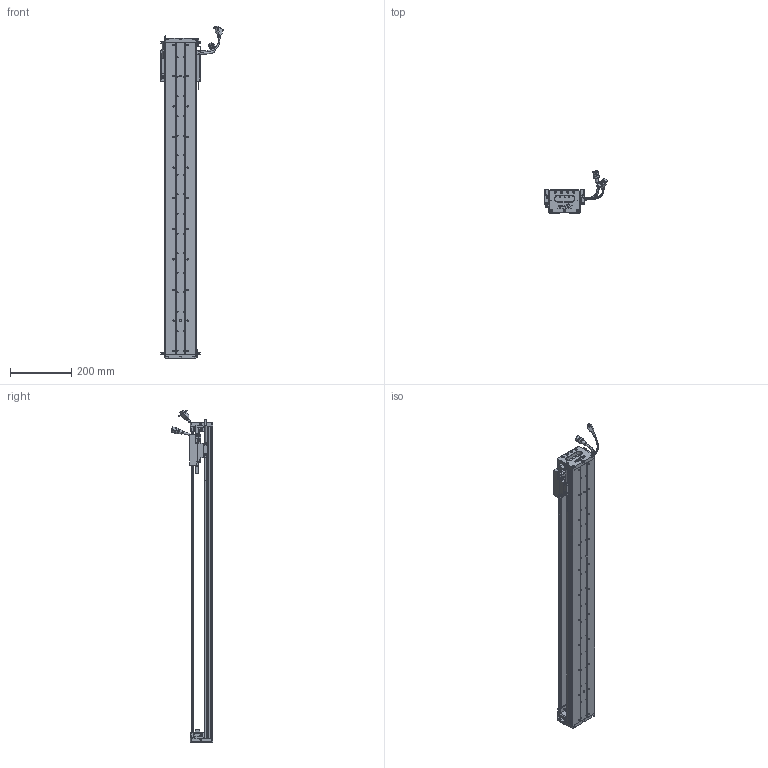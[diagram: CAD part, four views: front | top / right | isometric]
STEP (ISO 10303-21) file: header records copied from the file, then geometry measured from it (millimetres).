
FILE_DESCRIPTION (( 'STEP AP203' ), '1' );
FILE_NAME ('Z1-RY100D-1-L500-B-K.SLDASM_0850.step', '2021-05-17T01:40:48', ( '盈信电脑' ), ( '东莞市道滘镇水果街19号' ), 'SwSTEP 2.0', 'SolidWorks 2016', '' );
FILE_SCHEMA (( 'CONFIG_CONTROL_DESIGN' ));
Length unit declared in the file: millimetre
Products named in the file (36): 140雄赽晤鎢ん堤盄; 100-Z-臏賑輸盄裔(21遴); 覜茼ん672; SEAL-Part-1; HARNESS-Part-2; 榋妏寠巭燃_暯_M2_2; COVER; 080黍杅芛假蚾釱21遴; Z-RY100D覜茼んえ; COVER-Part-1; PSLH080_PSLF2; Z-RY100D詩湍狟揤裔; SCALE-Part-1; PBU_SHEET; LABEL; HOLDER0; HARNESS; SEAL; SCALE-Part-2; SCREW-M1.7-1; HARNESS-Part-1; SCREW-M1.6; SCREW-M1.6-2; Z1-RY100D-500-倰第菁釱_0850; Z-100詩湍傷裔啣; SCREW-M1.7; SCREW-M1.6-1; SHIELDPLATE; Z1-RY100-L500詩湍90mm遵_0850; Z1-RY100D-1-L500-B-K.SLDASM_0850; 140蚥薯蝶輸; SCREW-M1.6-3; Z-RY100D詩湍奻揤裔; Z1-RY100铝滑块（21款）; LABEL-Part-1; SCALE
Assembly tree (44 placements, depth 4):
  Z1-RY100D-1-L500-B-K.SLDASM_0850
    Z1-RY100D-500-倰第菁釱_0850
    Z1-RY100铝滑块（21款）
    PSLH080_PSLF2
      SCALE
        SCALE-Part-1
        SCALE-Part-2
      HARNESS
        HARNESS-Part-1
        HARNESS-Part-2
      LABEL
        LABEL-Part-1
      COVER
        COVER-Part-1
      SEAL
        SEAL-Part-1
      榋妏寠巭燃_暯_M2_2
      SHIELDPLATE
      SCREW-M1.7
      SCREW-M1.7-1
      PBU_SHEET
      SCREW-M1.6
      SCREW-M1.6-1
      SCREW-M1.6-2
      SCREW-M1.6-3
      HOLDER0
    080黍杅芛假蚾釱21遴
    Z-100詩湍傷裔啣  x2
    140蚥薯蝶輸  x2
    覜茼ん672  x4
    Z-RY100D覜茼んえ  x3
    100-Z-臏賑輸盄裔(21遴)
    140雄赽晤鎢ん堤盄
    Z1-RY100-L500詩湍90mm遵_0850
    Z-RY100D詩湍狟揤裔  x2
    Z-RY100D詩湍奻揤裔  x2
Bounding box: 205.84 x 136.11 x 1085.43 mm (x, y, z)
Volume: 2149665.7 mm3; surface area: 848220.6 mm2
Topology: 39 solids, 39 shells, 2594 faces, 6823 edges, 4332 vertices
Faces by surface type: plane 1176, cylinder 1086, cone 210, torus 69, bspline 53
Entity records: 67931 total; most frequent: CARTESIAN_POINT 14397, DIRECTION 10681, ORIENTED_EDGE 10078, EDGE_CURVE 5039, AXIS2_PLACEMENT_3D 3904, VERTEX_POINT 3240, VECTOR 2873, LINE 2873
